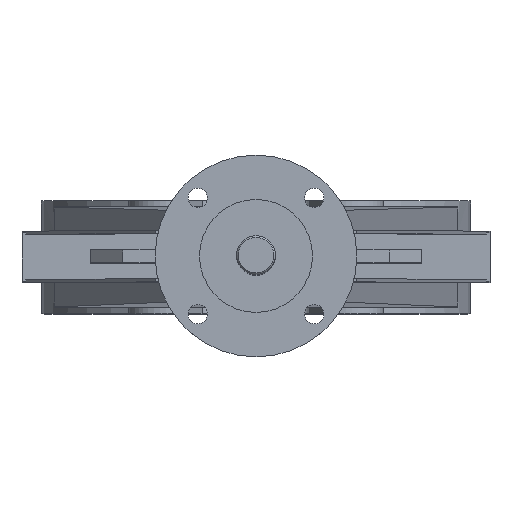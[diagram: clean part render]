
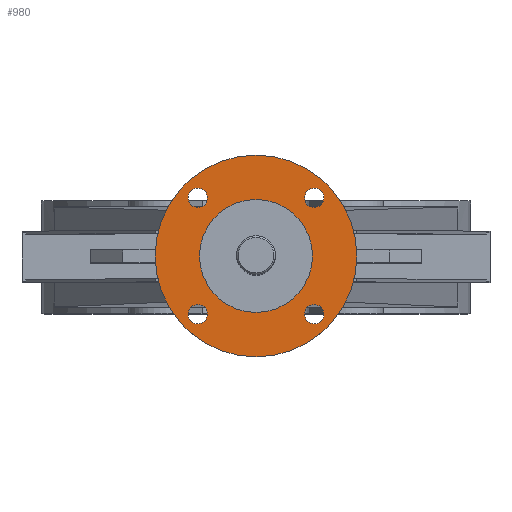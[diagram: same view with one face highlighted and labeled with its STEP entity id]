
A CAD part, top view. The second image highlights one B-rep face of the part: STEP entity #980.
In plain terms, the highlighted planar face has unit normal (0, 0, 1).
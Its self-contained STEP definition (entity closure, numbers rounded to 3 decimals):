
#980=ADVANCED_FACE('',(#2249,#2251,#2253,#2255,#2257,#2259),#2261,.T.);
#2249=FACE_BOUND('',#2250,.T.);
#2250=EDGE_LOOP('',(#3303));
#2251=FACE_BOUND('',#2252,.T.);
#2252=EDGE_LOOP('',(#3304));
#2253=FACE_BOUND('',#2254,.T.);
#2254=EDGE_LOOP('',(#3305));
#2255=FACE_BOUND('',#2256,.T.);
#2256=EDGE_LOOP('',(#3306));
#2257=FACE_BOUND('',#2258,.T.);
#2258=EDGE_LOOP('',(#3307));
#2259=FACE_BOUND('',#2260,.T.);
#2260=EDGE_LOOP('',(#3308));
#2261=PLANE('',#2262);
#2262=AXIS2_PLACEMENT_3D('',#2263,#2264,#2265);
#2263=CARTESIAN_POINT('',(0.,0.,527.));
#2264=DIRECTION('',(0.,0.,1.));
#2265=DIRECTION('',(-1.,0.,0.));
#3303=ORIENTED_EDGE('',*,*,#3727,.T.);
#3304=ORIENTED_EDGE('',*,*,#3728,.T.);
#3305=ORIENTED_EDGE('',*,*,#3729,.T.);
#3306=ORIENTED_EDGE('',*,*,#3730,.T.);
#3307=ORIENTED_EDGE('',*,*,#3855,.T.);
#3308=ORIENTED_EDGE('',*,*,#3731,.T.);
#3727=EDGE_CURVE('',#4309,#4309,#4310,.T.);
#3728=EDGE_CURVE('',#4311,#4311,#4312,.F.);
#3729=EDGE_CURVE('',#4313,#4313,#4314,.F.);
#3730=EDGE_CURVE('',#4315,#4315,#4316,.F.);
#3731=EDGE_CURVE('',#4317,#4317,#4318,.F.);
#3855=EDGE_CURVE('',#4532,#4532,#4533,.F.);
#4309=VERTEX_POINT('',#5537);
#4310=CIRCLE('',#5538,62.5);
#4311=VERTEX_POINT('',#5542);
#4312=CIRCLE('',#5543,6.);
#4313=VERTEX_POINT('',#5547);
#4314=CIRCLE('',#5548,6.);
#4315=VERTEX_POINT('',#5552);
#4316=CIRCLE('',#5553,6.);
#4317=VERTEX_POINT('',#5557);
#4318=CIRCLE('',#5558,6.);
#4532=VERTEX_POINT('',#6078);
#4533=CIRCLE('',#6079,35.);
#5537=CARTESIAN_POINT('',(-62.5,0.,527.));
#5538=AXIS2_PLACEMENT_3D('',#5539,#5540,#5541);
#5539=CARTESIAN_POINT('',(0.,0.,527.));
#5540=DIRECTION('',(0.,0.,1.));
#5541=DIRECTION('',(-1.,0.,0.));
#5542=CARTESIAN_POINT('',(-42.062,-36.062,527.));
#5543=AXIS2_PLACEMENT_3D('',#5544,#5545,#5546);
#5544=CARTESIAN_POINT('',(-36.062,-36.062,527.));
#5545=DIRECTION('',(0.,0.,1.));
#5546=DIRECTION('',(-1.,0.,0.));
#5547=CARTESIAN_POINT('',(36.062,-42.062,527.));
#5548=AXIS2_PLACEMENT_3D('',#5549,#5550,#5551);
#5549=CARTESIAN_POINT('',(36.062,-36.062,527.));
#5550=DIRECTION('',(0.,0.,1.));
#5551=DIRECTION('',(0.,-1.,0.));
#5552=CARTESIAN_POINT('',(42.062,36.062,527.));
#5553=AXIS2_PLACEMENT_3D('',#5554,#5555,#5556);
#5554=CARTESIAN_POINT('',(36.062,36.062,527.));
#5555=DIRECTION('',(0.,0.,1.));
#5556=DIRECTION('',(1.,0.,-0.));
#5557=CARTESIAN_POINT('',(-36.062,42.062,527.));
#5558=AXIS2_PLACEMENT_3D('',#5559,#5560,#5561);
#5559=CARTESIAN_POINT('',(-36.062,36.062,527.));
#5560=DIRECTION('',(0.,0.,1.));
#5561=DIRECTION('',(0.,1.,0.));
#6078=CARTESIAN_POINT('',(0.,35.,527.));
#6079=AXIS2_PLACEMENT_3D('',#6080,#6081,#6082);
#6080=CARTESIAN_POINT('',(0.,0.,527.));
#6081=DIRECTION('',(0.,0.,1.));
#6082=DIRECTION('',(0.,1.,0.));
